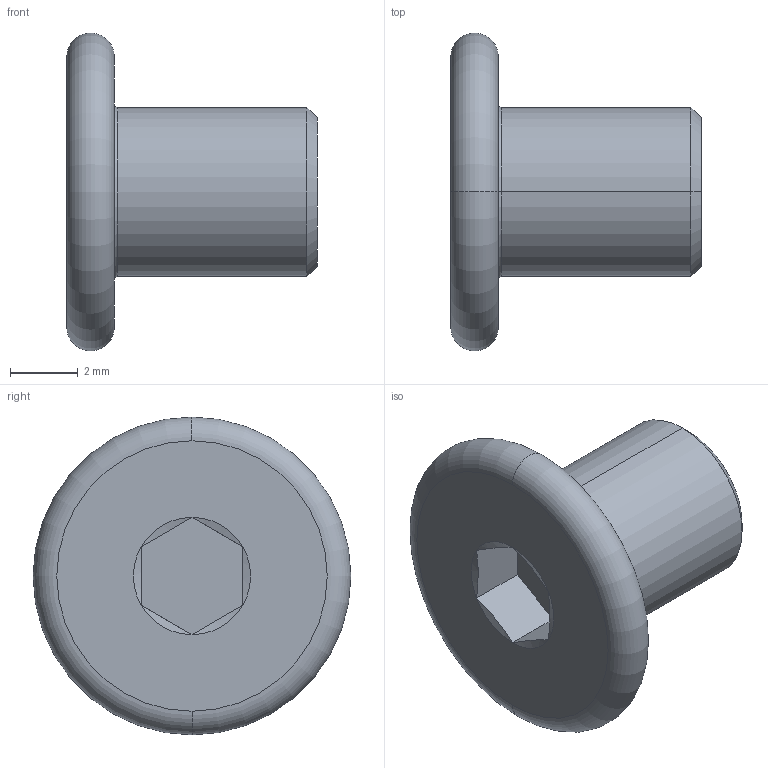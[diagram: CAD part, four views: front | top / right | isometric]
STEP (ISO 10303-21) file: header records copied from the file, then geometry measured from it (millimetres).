
FILE_DESCRIPTION (( 'STEP AP203' ), '1' );
FILE_NAME ('LGD-304M-M5x6.STEP', '2026-08-13T10:32:48', ( '' ), ( '' ), 'SwSTEP 2.0', 'SolidWorks 2020', '' );
FILE_SCHEMA (( 'CONFIG_CONTROL_DESIGN' ));
Length unit declared in the file: millimetre
Products named in the file (1): LGD-304M-M5x6
Bounding box: 7.4 x 9.4 x 9.4 mm (x, y, z)
Volume: 195 mm3; surface area: 269.9 mm2
Topology: 1 solids, 1 shells, 24 faces, 44 edges, 24 vertices
Faces by surface type: plane 10, cone 8, torus 4, cylinder 2
Entity records: 673 total; most frequent: CARTESIAN_POINT 119, DIRECTION 110, ORIENTED_EDGE 88, AXIS2_PLACEMENT_3D 47, EDGE_CURVE 44, EDGE_LOOP 26, ADVANCED_FACE 24, VERTEX_POINT 24
